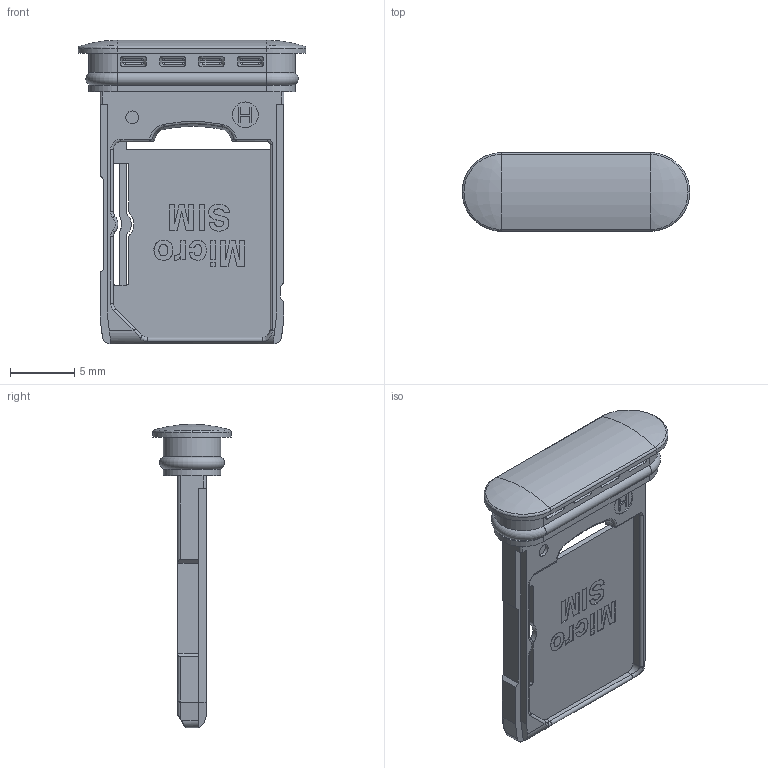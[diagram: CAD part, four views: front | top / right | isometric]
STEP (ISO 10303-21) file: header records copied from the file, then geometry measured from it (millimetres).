
FILE_DESCRIPTION((''),'2;1');
FILE_NAME('115U-T020_C_2_ORING','2026-06-11T',('fros.liao'),(''),'CREO PARAMETRIC BY PTC INC, 2018360','CREO PARAMETRIC BY PTC INC, 2018360','');
FILE_SCHEMA(('CONFIG_CONTROL_DESIGN'));
Length unit declared in the file: millimetre
Products named in the file (1): 115U-T020_C_2_ORING
Bounding box: 17.7 x 6.1 x 23.6 mm (x, y, z)
Volume: 496.9 mm3; surface area: 1139.2 mm2
Topology: 1 solids, 1 shells, 632 faces, 1700 edges, 1062 vertices
Faces by surface type: plane 241, cylinder 156, extrusion 144, sphere 42, torus 29, bspline 13, cone 7
Entity records: 21812 total; most frequent: CARTESIAN_POINT 6718, ORIENTED_EDGE 3324, DIRECTION 2713, EDGE_CURVE 1662, VECTOR 1067, VERTEX_POINT 1062, LINE 923, AXIS2_PLACEMENT_3D 823
